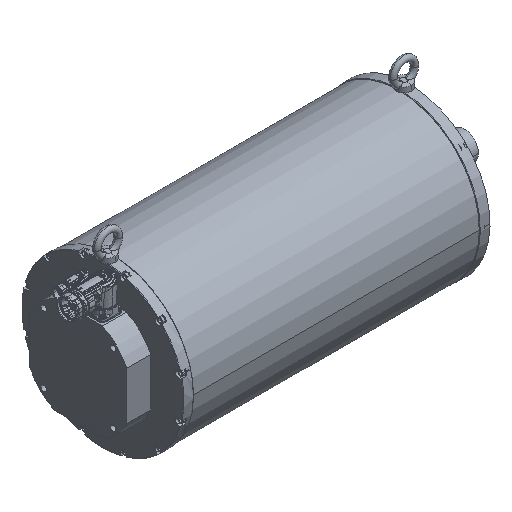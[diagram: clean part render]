
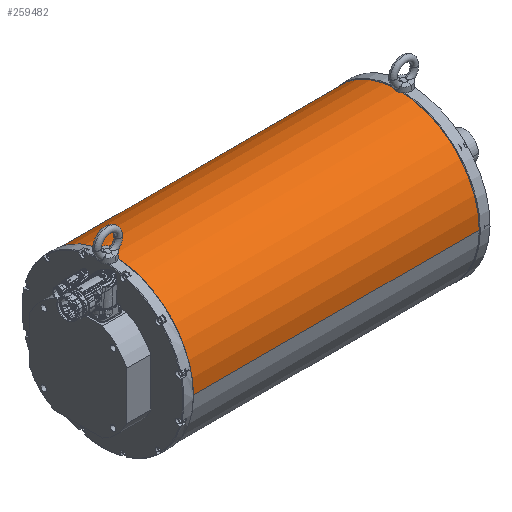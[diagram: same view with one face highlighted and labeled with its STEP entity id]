
A CAD part, isometric view. The second image highlights one B-rep face of the part: STEP entity #259482.
In plain terms, the highlighted cylindrical face has radius 158 mm (diameter 316 mm), a partial arc.
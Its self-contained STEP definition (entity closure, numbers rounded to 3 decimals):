
#259443=CARTESIAN_POINT('Axis2P3D Location',(280.,0.,0.)) ;
#259448=CARTESIAN_POINT('Line Origine',(280.,158.,0.)) ;
#259452=CARTESIAN_POINT('Cartesian Point',(0.,158.,0.)) ;
#259454=CARTESIAN_POINT('Cartesian Point',(560.,158.,0.)) ;
#259457=CARTESIAN_POINT('Axis2P3D Location',(0.,0.,0.)) ;
#259461=CARTESIAN_POINT('Cartesian Point',(0.,-158.,0.)) ;
#259464=CARTESIAN_POINT('Line Origine',(280.,-158.,0.)) ;
#259468=CARTESIAN_POINT('Cartesian Point',(560.,-158.,0.)) ;
#259471=CARTESIAN_POINT('Axis2P3D Location',(560.,0.,0.)) ;
#259444=DIRECTION('Axis2P3D Direction',(1.,0.,0.)) ;
#259445=DIRECTION('Axis2P3D XDirection',(0.,1.,0.)) ;
#259449=DIRECTION('Vector Direction',(1.,0.,0.)) ;
#259458=DIRECTION('Axis2P3D Direction',(1.,0.,0.)) ;
#259465=DIRECTION('Vector Direction',(1.,0.,0.)) ;
#259472=DIRECTION('Axis2P3D Direction',(1.,0.,0.)) ;
#259446=AXIS2_PLACEMENT_3D('Cylinder Axis2P3D',#259443,#259444,#259445) ;
#259459=AXIS2_PLACEMENT_3D('Circle Axis2P3D',#259457,#259458,$) ;
#259473=AXIS2_PLACEMENT_3D('Circle Axis2P3D',#259471,#259472,$) ;
#259477=ORIENTED_EDGE('Oriented Edge',*,*,#259456,.F.) ;
#259478=ORIENTED_EDGE('Oriented Edge',*,*,#259463,.T.) ;
#259479=ORIENTED_EDGE('Oriented Edge',*,*,#259470,.T.) ;
#259480=ORIENTED_EDGE('Oriented Edge',*,*,#259475,.F.) ;
#259450=VECTOR('Line Direction',#259449,1.) ;
#259466=VECTOR('Line Direction',#259465,1.) ;
#259482=ADVANCED_FACE('',(#259481),#259447,.T.) ;
#259460=CIRCLE('generated circle',#259459,158.) ;
#259474=CIRCLE('generated circle',#259473,158.) ;
#259447=CYLINDRICAL_SURFACE('generated cylinder',#259446,158.) ;
#259456=EDGE_CURVE('',#259453,#259455,#259451,.T.) ;
#259463=EDGE_CURVE('',#259453,#259462,#259460,.T.) ;
#259470=EDGE_CURVE('',#259462,#259469,#259467,.T.) ;
#259475=EDGE_CURVE('',#259455,#259469,#259474,.T.) ;
#259476=EDGE_LOOP('Oriented Loop',(#259477,#259478,#259479,#259480)) ;
#259481=FACE_OUTER_BOUND('Face Bound',#259476,.T.) ;
#259451=LINE('Line',#259448,#259450) ;
#259467=LINE('Line',#259464,#259466) ;
#259453=VERTEX_POINT('Vertex Point',#259452) ;
#259455=VERTEX_POINT('Vertex Point',#259454) ;
#259462=VERTEX_POINT('Vertex Point',#259461) ;
#259469=VERTEX_POINT('Vertex Point',#259468) ;
